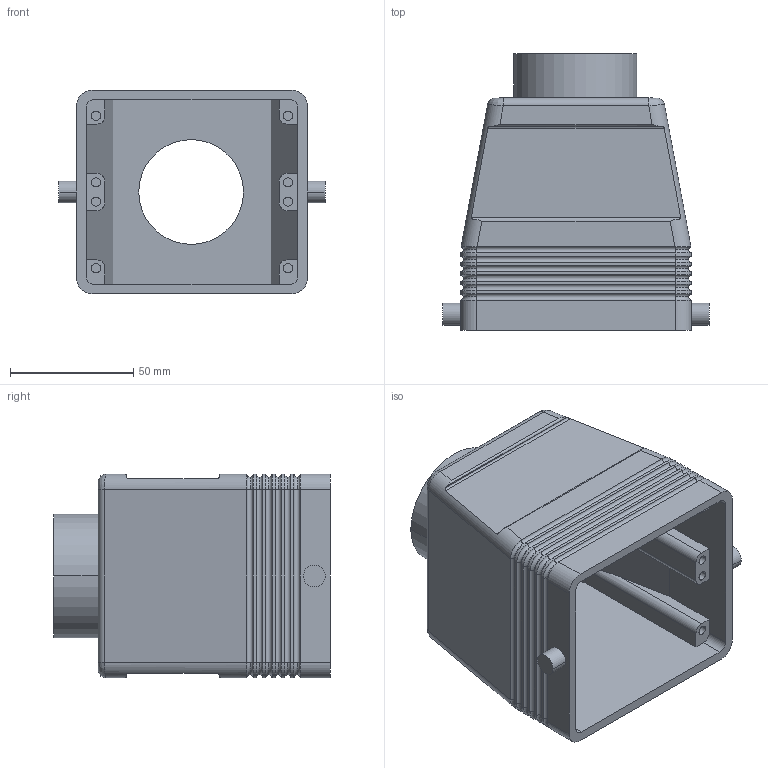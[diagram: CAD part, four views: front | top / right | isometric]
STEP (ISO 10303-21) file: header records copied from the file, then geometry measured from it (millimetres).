
FILE_DESCRIPTION (( 'STEP AP214' ), '1' );
FILE_NAME ('CHV-32L.STEP', '2006-07-05T20:33:45', ( 'Mencom User' ), ( 'Mencom Corporation' ), 'SwSTEP 2.0', 'SolidWorks 2006104', '' );
FILE_SCHEMA (( 'AUTOMOTIVE_DESIGN' ));
Length unit declared in the file: inch
Products named in the file (1): CHV-32L
Bounding box: 107.72 x 112.03 x 82.5 mm (x, y, z)
Volume: 138668 mm3; surface area: 78472.2 mm2
Topology: 1 solids, 1 shells, 231 faces, 548 edges, 332 vertices
Faces by surface type: cylinder 102, plane 77, torus 48, bspline 4
Entity records: 9437 total; most frequent: CARTESIAN_POINT 3920, DIRECTION 1200, ORIENTED_EDGE 1096, EDGE_CURVE 548, AXIS2_PLACEMENT_3D 472, VERTEX_POINT 332, LINE 256, VECTOR 256
